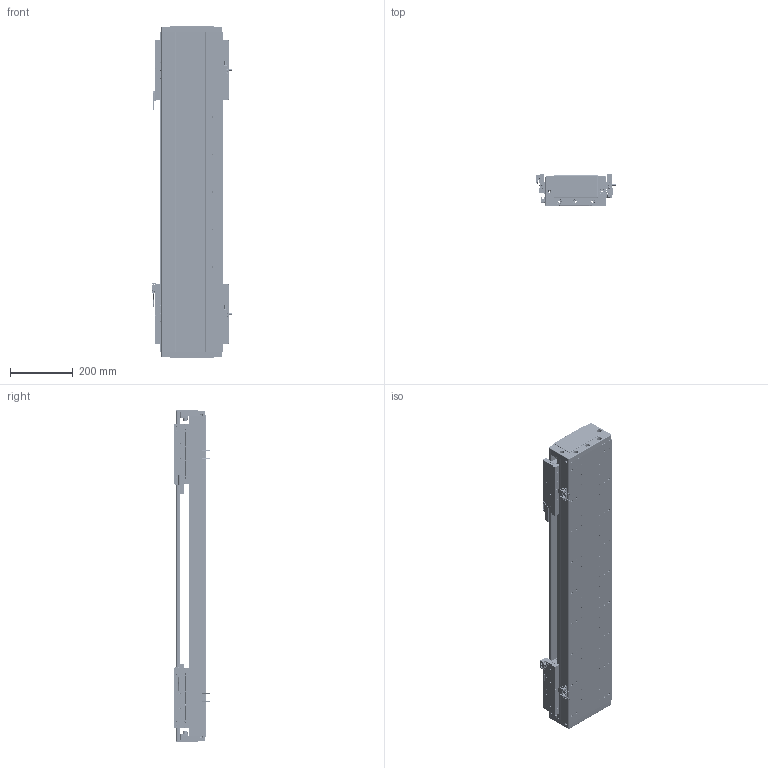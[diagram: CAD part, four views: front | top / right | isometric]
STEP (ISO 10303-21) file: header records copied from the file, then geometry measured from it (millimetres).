
FILE_DESCRIPTION (( 'STEP AP203' ), '1' );
FILE_NAME ('DA-C195-2-C2-T560-C010-0.2 眻盄萇儂.STEP', '2025-08-14T01:48:42', ( '' ), ( '' ), 'SwSTEP 2.0', 'SolidWorks 2019', '' );
FILE_SCHEMA (( 'CONFIG_CONTROL_DESIGN' ));
Length unit declared in the file: millimetre
Products named in the file (16): PM-Y65嫖萇羲壽郪璃; DKW-GYP-ZJ-00 笢潔嫖萇覜茼え; IU-CU195-L 菁釱絳寢; 葩璃 DA95-GT-T-00; DA-C195-2-C2-T560-C010-0.2 眻盄萇儂; LMT黍杅芛; DKW168-HXJ-ZJ-00 笢潔滅袉砎蝶; DA95-HXJ-00 遣喳砎蝶; DA195-DG-H-00  端盖（压铸镂空版）; CU195-C2賑輸-俋楷; 66156-0001-003-00 裔啣; IU-CU195-L-00 菁釱(L1020); DKW-KGZ-ZJ-00 中间光电开关支架; 66156-0001-005-00 光电感应片(默认); MS200 棠掑喜S315-T240; PM-T45ㄗ侂狟ㄘ
Assembly tree (28 placements, depth 3):
  DA-C195-2-C2-T560-C010-0.2 眻盄萇儂
    IU-CU195-L 菁釱絳寢
      IU-CU195-L-00 菁釱(L1020)
      葩璃 DA95-GT-T-00  x4
    LMT黍杅芛  x2
    MS200 棠掑喜S315-T240
    PM-T45ㄗ侂狟ㄘ  x4
    66156-0001-005-00 光电感应片(默认)  x2
    DA195-DG-H-00  端盖（压铸镂空版）  x2
    DA95-HXJ-00 遣喳砎蝶  x4
    PM-Y65嫖萇羲壽郪璃
    66156-0001-003-00 裔啣
    DKW168-HXJ-ZJ-00 笢潔滅袉砎蝶
    DKW-GYP-ZJ-00 笢潔嫖萇覜茼え
    DKW-KGZ-ZJ-00 中间光电开关支架
    CU195-C2賑輸-俋楷  x2
Bounding box: 258.2 x 115.6 x 1060 mm (x, y, z)
Volume: 8810594.5 mm3; surface area: 2437778.3 mm2
Topology: 106 solids, 242 shells, 7828 faces, 19584 edges, 11891 vertices
Faces by surface type: cylinder 3154, plane 2858, cone 946, bspline 718, torus 80, sphere 72
Entity records: 153441 total; most frequent: CARTESIAN_POINT 46684, ORIENTED_EDGE 22170, DIRECTION 21266, EDGE_CURVE 11085, AXIS2_PLACEMENT_3D 7751, VERTEX_POINT 7006, VECTOR 5764, LINE 5764
